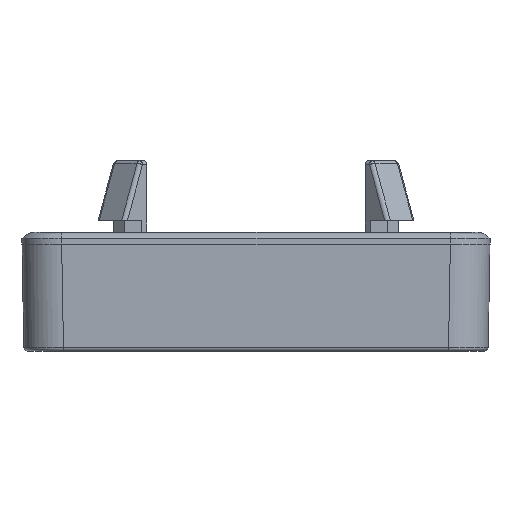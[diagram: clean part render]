
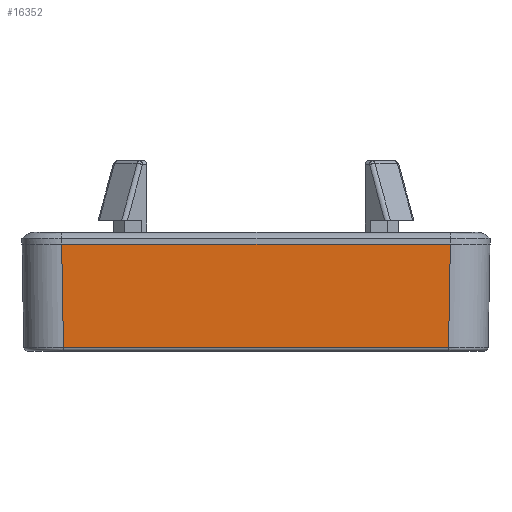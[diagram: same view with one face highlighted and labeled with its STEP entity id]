
A CAD part, left-side view. The second image highlights one B-rep face of the part: STEP entity #16352.
In plain terms, the highlighted planar face has unit normal (-1, 0, -0.018).
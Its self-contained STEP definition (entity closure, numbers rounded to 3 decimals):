
#15486=PLANE('',#45641);
#16352=ADVANCED_FACE('',(#18523),#15486,.F.);
#18523=FACE_OUTER_BOUND('',#20241,.T.);
#20241=EDGE_LOOP('',(#27568,#27569,#27570,#27571));
#22601=LINE('',#55546,#24819);
#22604=LINE('',#55590,#24822);
#22609=LINE('',#55651,#24827);
#22610=LINE('',#55652,#24828);
#24819=VECTOR('',#48161,1.);
#24822=VECTOR('',#48166,1.);
#24827=VECTOR('',#48177,1.);
#24828=VECTOR('',#48178,1.);
#27568=ORIENTED_EDGE('',*,*,#40092,.T.);
#27569=ORIENTED_EDGE('',*,*,#40106,.T.);
#27570=ORIENTED_EDGE('',*,*,#40083,.T.);
#27571=ORIENTED_EDGE('',*,*,#40107,.F.);
#36915=VERTEX_POINT('',#55547);
#36916=VERTEX_POINT('',#55548);
#36924=VERTEX_POINT('',#55589);
#36925=VERTEX_POINT('',#55591);
#40083=EDGE_CURVE('',#36915,#36916,#22601,.T.);
#40092=EDGE_CURVE('',#36925,#36924,#22604,.T.);
#40106=EDGE_CURVE('',#36924,#36915,#22609,.T.);
#40107=EDGE_CURVE('',#36925,#36916,#22610,.T.);
#45641=AXIS2_PLACEMENT_3D('',#55653,#48179,#48180);
#48161=DIRECTION('',(-0.017,-0.017,1.));
#48166=DIRECTION('',(0.017,-0.017,-1.));
#48177=DIRECTION('',(0.,-1.,0.));
#48178=DIRECTION('',(0.,-1.,0.));
#48179=DIRECTION('',(1.,0.,0.017));
#48180=DIRECTION('',(-0.017,0.,1.));
#55546=CARTESIAN_POINT('',(-73.493,-24.493,13.073));
#55547=CARTESIAN_POINT('',(-73.273,-24.274,0.491));
#55548=CARTESIAN_POINT('',(-73.5,-24.501,13.5));
#55589=CARTESIAN_POINT('',(-73.273,24.274,0.491));
#55590=CARTESIAN_POINT('',(-73.493,24.493,13.073));
#55591=CARTESIAN_POINT('',(-73.5,24.501,13.5));
#55651=CARTESIAN_POINT('',(-73.273,0.,0.491));
#55652=CARTESIAN_POINT('',(-73.5,0.,13.5));
#55653=CARTESIAN_POINT('',(-73.5,0.,13.5));
